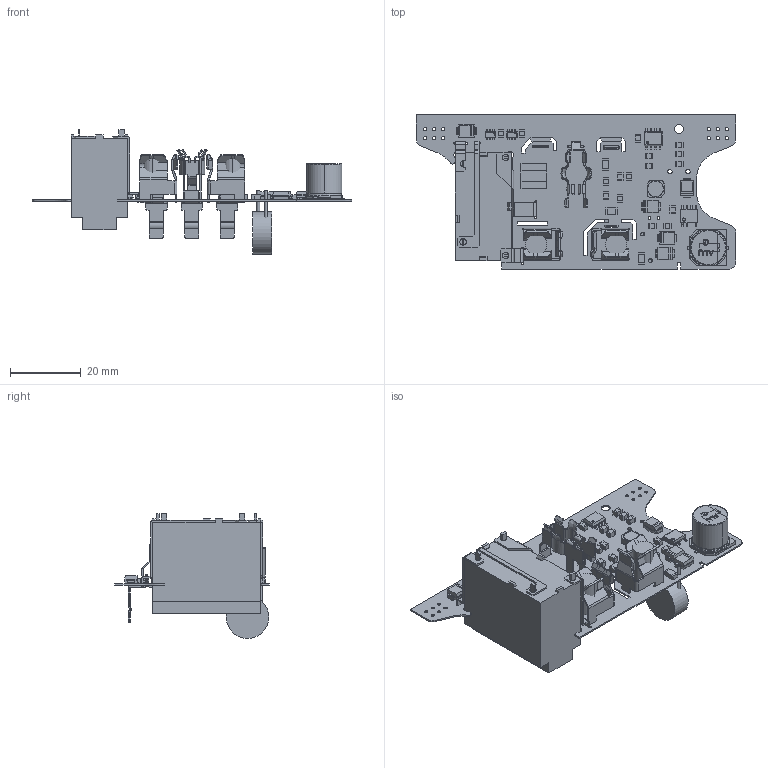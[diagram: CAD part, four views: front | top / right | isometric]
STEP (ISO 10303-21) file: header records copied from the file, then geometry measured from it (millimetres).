
FILE_DESCRIPTION(('Open CASCADE Model'),'2;1');
FILE_NAME('Open CASCADE Shape Model','2018-12-25T10:15:26',('Author'),( 'Open CASCADE'),'Open CASCADE STEP processor 6.5','Open CASCADE 6.5' ,'Unknown');
FILE_SCHEMA(('AUTOMOTIVE_DESIGN { 1 0 10303 214 1 1 1 1 }'));
Length unit declared in the file: millimetre
Products named in the file (86): PCB; Board; U4; INA181A4IDBVR; Body; PinsArrayLR; C1; 670419488; Extruded; 670419360; C2; C3; C4; C22; C23; User_Library-ALU-G; User_Library-ALU-G_Pins_1; User_Library-ALU-G_Fuss_1; User_Library-ALU-G_K_X_F6rper_1; User_Library-ALU-G_Beschriftung_1; D3; SMB_nominal; D4; D5; D6; F1; 670418976; 670418848; L4; User_Library-CDRH4D18; R1; 670419232; 670419104; R3; 657209264; 657209008; R4; R5; R7; R8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
Assembly tree (143 placements, depth 4):
  PCB
    Board
    U4
      INA181A4IDBVR
        Body
        PinsArrayLR
    C1
      670419488  x2
        Extruded
      670419360
        Extruded
    C2
      670419488  x2
        Extruded
      670419360
        Extruded
    C3
      670419488  x2
        Extruded
      670419360
        Extruded
    C4
      670419488  x2
        Extruded
      670419360
        Extruded
    C22
      670419488  x2
        Extruded
      670419360
        Extruded
    C23
      User_Library-ALU-G
        User_Library-ALU-G_Pins_1
        User_Library-ALU-G_Fuss_1
        User_Library-ALU-G_K_X_F6rper_1
        User_Library-ALU-G_Beschriftung_1
    D3
      SMB_nominal
    D4
      SMB_nominal
    D5
      SMB_nominal
    D6
      SMB_nominal
    F1
      670418976  x2
        Extruded
      670418848
        Extruded
    L4
      User_Library-CDRH4D18
    R1
      670419232  x2
        Extruded
      670419104
        Extruded
    R3
      657209264  x2
        Extruded
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Bounding box: 90.02 x 43.51 x 35.21 mm (x, y, z)
Volume: 16210.5 mm3; surface area: 16710 mm2
Topology: 105 solids, 105 shells, 3053 faces, 7582 edges, 4745 vertices
Faces by surface type: plane 2143, cylinder 640, bspline 266, torus 4
Full cylindrical faces by diameter (mm): 0.2 x2, 0.75 x2, 0.85 x2, 0.9 x12, 1.067 x2, 1.2 x2, 2.5 x1, 12 x1
Entity records: 193545 total; most frequent: CARTESIAN_POINT 73679, DIRECTION 19223, LINE 12076, VECTOR 12076, ORIENTED_EDGE 11972, PCURVE 11972, DEFINITIONAL_REPRESENTATION 11972, EDGE_CURVE 5986
